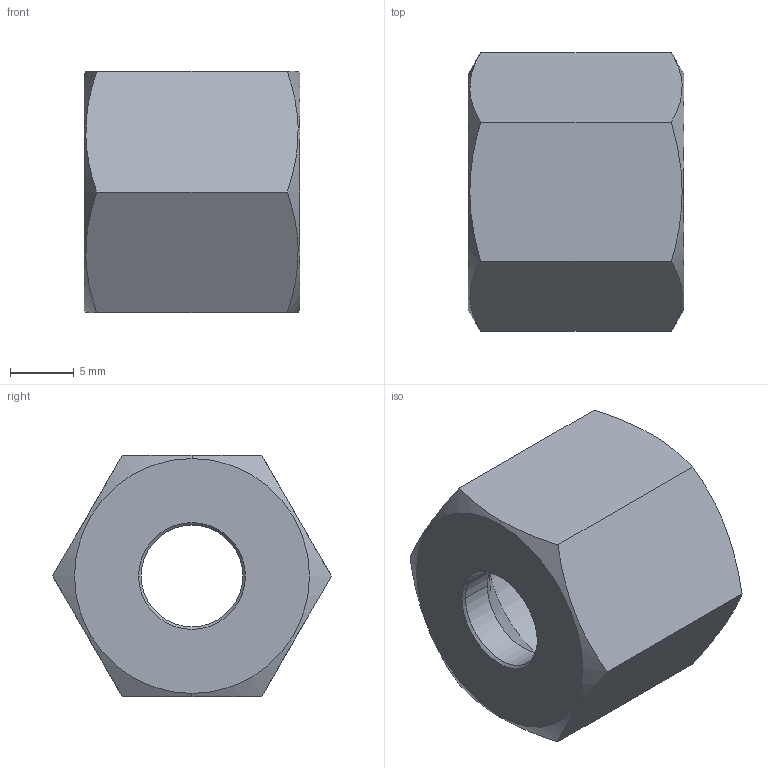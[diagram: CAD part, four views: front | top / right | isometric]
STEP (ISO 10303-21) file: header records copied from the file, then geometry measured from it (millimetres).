
FILE_DESCRIPTION((''),'2;1');
FILE_NAME('100215.stp','2006-03-06T15:10:50',('Dario Falcomer'),('CAST S.p.A.'),'AutoCAD STEP 2000i','AutoCAD 2000i',', , ');
FILE_SCHEMA(('CONFIG_CONTROL_DESIGN'));
Length unit declared in the file: millimetre
Products named in the file (2): 100215.0; CHIAVE_DADI#0
Assembly tree (1 placements, depth 2):
  100215.0
    CHIAVE_DADI#0
Bounding box: 17 x 21.94 x 19 mm (x, y, z)
Volume: 2935.8 mm3; surface area: 2188.8 mm2
Topology: 1 solids, 1 shells, 22 faces, 52 edges, 32 vertices
Faces by surface type: cone 10, plane 8, cylinder 4
Entity records: 725 total; most frequent: CARTESIAN_POINT 140, ORIENTED_EDGE 104, DIRECTION 100, EDGE_CURVE 52, AXIS2_PLACEMENT_3D 40, VERTEX_POINT 32, EDGE_LOOP 24, FACE_OUTER_BOUND 22
